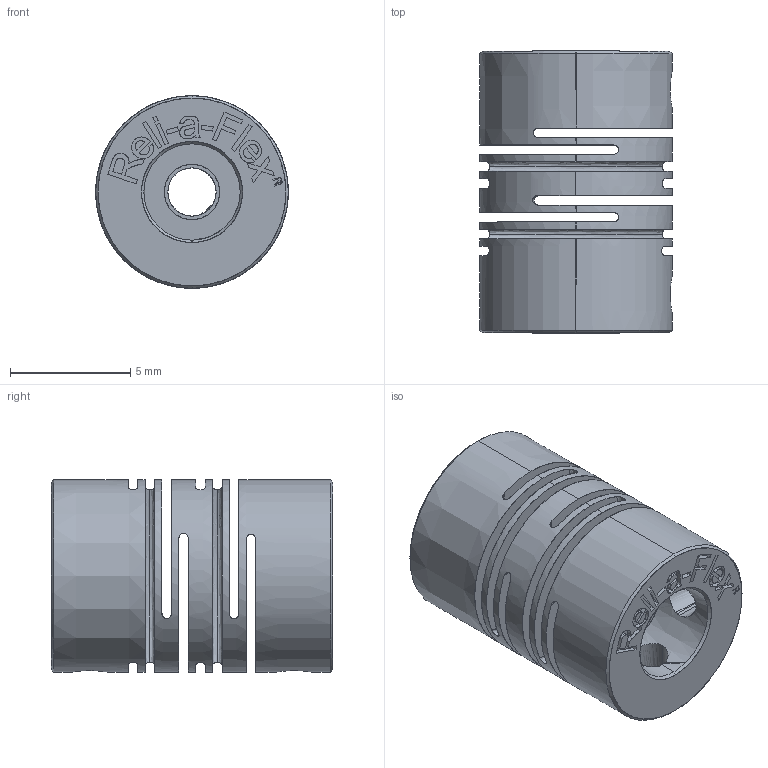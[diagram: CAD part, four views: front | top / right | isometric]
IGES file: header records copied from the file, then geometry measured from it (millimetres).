
Start section: SolidWorks IGES file using analytic representation for surfaces
Global section: file name: C:\Users\render\Documents\CAD Files\Reli-a-flex\Miniature Reli-a-Flex Couplings (6,8,10)\RCSA8\RCSA8-4-2.IGS; native system: SolidWorks 2011; preprocessor: SolidWorks 2011; author: render; date: 120426.143104; units: millimetre
Bounding box: 8 x 11.7 x 8 mm (x, y, z)
Surface area: 1060.4 mm2 (no closed solid volume)
Topology: 0 solids, 0 shells, 212 faces, 2848 edges, 2848 vertices
Faces by surface type: bspline 136, revolution 76
